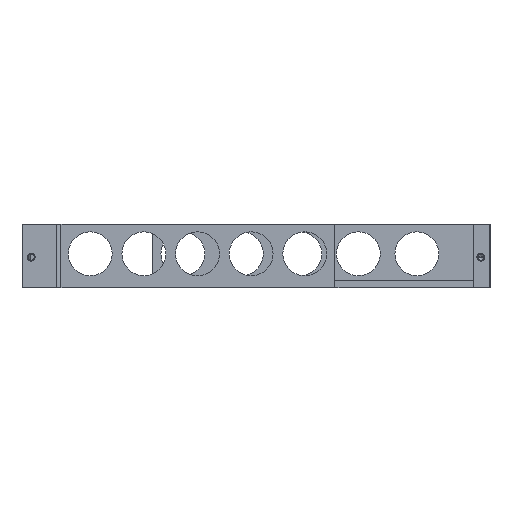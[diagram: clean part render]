
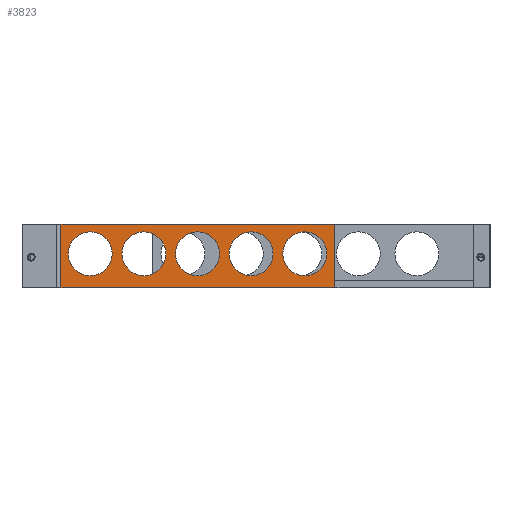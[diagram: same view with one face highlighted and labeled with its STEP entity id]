
A CAD part, left-side view. The second image highlights one B-rep face of the part: STEP entity #3823.
In plain terms, the highlighted planar face has unit normal (-1, 0, 0).
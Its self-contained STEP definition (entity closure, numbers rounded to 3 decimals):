
#180=DIRECTION('',(0.,1.,0.));
#181=VECTOR('',#180,56.2);
#182=CARTESIAN_POINT('',(-46.2,-16.2,0.));
#183=LINE('',#182,#181);
#760=DIRECTION('',(0.,1.,0.));
#761=VECTOR('',#760,56.2);
#762=CARTESIAN_POINT('',(-46.2,-16.2,13.1));
#763=LINE('',#762,#761);
#1130=CARTESIAN_POINT('',(-46.2,-10.,7.));
#1131=DIRECTION('',(-1.,0.,0.));
#1132=DIRECTION('',(0.,-1.,0.));
#1133=AXIS2_PLACEMENT_3D('',#1130,#1131,#1132);
#1135=CARTESIAN_POINT('',(-46.2,-10.,7.));
#1136=DIRECTION('',(-1.,0.,0.));
#1137=DIRECTION('',(0.,1.,0.));
#1138=AXIS2_PLACEMENT_3D('',#1135,#1136,#1137);
#1140=CARTESIAN_POINT('',(-46.2,1.,7.));
#1141=DIRECTION('',(-1.,0.,0.));
#1142=DIRECTION('',(0.,-1.,0.));
#1143=AXIS2_PLACEMENT_3D('',#1140,#1141,#1142);
#1145=CARTESIAN_POINT('',(-46.2,1.,7.));
#1146=DIRECTION('',(-1.,0.,0.));
#1147=DIRECTION('',(0.,1.,0.));
#1148=AXIS2_PLACEMENT_3D('',#1145,#1146,#1147);
#1150=CARTESIAN_POINT('',(-46.2,12.,7.));
#1151=DIRECTION('',(-1.,0.,0.));
#1152=DIRECTION('',(0.,-1.,0.));
#1153=AXIS2_PLACEMENT_3D('',#1150,#1151,#1152);
#1155=CARTESIAN_POINT('',(-46.2,12.,7.));
#1156=DIRECTION('',(-1.,0.,0.));
#1157=DIRECTION('',(0.,1.,0.));
#1158=AXIS2_PLACEMENT_3D('',#1155,#1156,#1157);
#1160=CARTESIAN_POINT('',(-46.2,23.,7.));
#1161=DIRECTION('',(-1.,0.,0.));
#1162=DIRECTION('',(0.,-1.,0.));
#1163=AXIS2_PLACEMENT_3D('',#1160,#1161,#1162);
#1165=CARTESIAN_POINT('',(-46.2,23.,7.));
#1166=DIRECTION('',(-1.,0.,0.));
#1167=DIRECTION('',(0.,1.,0.));
#1168=AXIS2_PLACEMENT_3D('',#1165,#1166,#1167);
#1170=CARTESIAN_POINT('',(-46.2,34.,7.));
#1171=DIRECTION('',(-1.,0.,0.));
#1172=DIRECTION('',(0.,-1.,0.));
#1173=AXIS2_PLACEMENT_3D('',#1170,#1171,#1172);
#1175=CARTESIAN_POINT('',(-46.2,34.,7.));
#1176=DIRECTION('',(-1.,0.,0.));
#1177=DIRECTION('',(0.,1.,0.));
#1178=AXIS2_PLACEMENT_3D('',#1175,#1176,#1177);
#1180=DIRECTION('',(0.,0.,-1.));
#1181=VECTOR('',#1180,13.1);
#1182=CARTESIAN_POINT('',(-46.2,40.,13.1));
#1183=LINE('',#1182,#1181);
#1184=DIRECTION('',(0.,0.,-1.));
#1185=VECTOR('',#1184,13.1);
#1186=CARTESIAN_POINT('',(-46.2,-16.2,13.1));
#1187=LINE('',#1186,#1185);
#2067=CARTESIAN_POINT('',(-46.2,-16.2,0.));
#2068=VERTEX_POINT('',#2067);
#2093=CARTESIAN_POINT('',(-46.2,-16.2,13.1));
#2094=VERTEX_POINT('',#2093);
#2505=CARTESIAN_POINT('',(-46.2,-14.5,7.));
#2506=CARTESIAN_POINT('',(-46.2,-5.5,7.));
#2507=VERTEX_POINT('',#2505);
#2508=VERTEX_POINT('',#2506);
#2513=CARTESIAN_POINT('',(-46.2,-3.5,7.));
#2514=CARTESIAN_POINT('',(-46.2,5.5,7.));
#2515=VERTEX_POINT('',#2513);
#2516=VERTEX_POINT('',#2514);
#2521=CARTESIAN_POINT('',(-46.2,7.5,7.));
#2522=CARTESIAN_POINT('',(-46.2,16.5,7.));
#2523=VERTEX_POINT('',#2521);
#2524=VERTEX_POINT('',#2522);
#2529=CARTESIAN_POINT('',(-46.2,18.5,7.));
#2530=CARTESIAN_POINT('',(-46.2,27.5,7.));
#2531=VERTEX_POINT('',#2529);
#2532=VERTEX_POINT('',#2530);
#2537=CARTESIAN_POINT('',(-46.2,29.5,7.));
#2538=CARTESIAN_POINT('',(-46.2,38.5,7.));
#2539=VERTEX_POINT('',#2537);
#2540=VERTEX_POINT('',#2538);
#2565=CARTESIAN_POINT('',(-46.2,40.,13.1));
#2566=CARTESIAN_POINT('',(-46.2,40.,0.));
#2567=VERTEX_POINT('',#2565);
#2568=VERTEX_POINT('',#2566);
#3782=CARTESIAN_POINT('',(-46.2,-16.2,13.1));
#3783=DIRECTION('',(1.,0.,0.));
#3784=DIRECTION('',(0.,1.,0.));
#3785=AXIS2_PLACEMENT_3D('',#3782,#3783,#3784);
#3786=PLANE('',#3785);
#3787=ORIENTED_EDGE('',*,*,#3776,.F.);
#3788=ORIENTED_EDGE('',*,*,#3326,.F.);
#3789=ORIENTED_EDGE('',*,*,#3209,.T.);
#3790=ORIENTED_EDGE('',*,*,#2676,.T.);
#3791=EDGE_LOOP('',(#3787,#3788,#3789,#3790));
#3792=FACE_OUTER_BOUND('',#3791,.F.);
#3794=ORIENTED_EDGE('',*,*,#3793,.T.);
#3796=ORIENTED_EDGE('',*,*,#3795,.T.);
#3797=EDGE_LOOP('',(#3794,#3796));
#3798=FACE_BOUND('',#3797,.F.);
#3800=ORIENTED_EDGE('',*,*,#3799,.T.);
#3802=ORIENTED_EDGE('',*,*,#3801,.T.);
#3803=EDGE_LOOP('',(#3800,#3802));
#3804=FACE_BOUND('',#3803,.F.);
#3806=ORIENTED_EDGE('',*,*,#3805,.T.);
#3808=ORIENTED_EDGE('',*,*,#3807,.T.);
#3809=EDGE_LOOP('',(#3806,#3808));
#3810=FACE_BOUND('',#3809,.F.);
#3812=ORIENTED_EDGE('',*,*,#3811,.T.);
#3814=ORIENTED_EDGE('',*,*,#3813,.T.);
#3815=EDGE_LOOP('',(#3812,#3814));
#3816=FACE_BOUND('',#3815,.F.);
#3818=ORIENTED_EDGE('',*,*,#3817,.T.);
#3820=ORIENTED_EDGE('',*,*,#3819,.T.);
#3821=EDGE_LOOP('',(#3818,#3820));
#3822=FACE_BOUND('',#3821,.F.);
#3823=ADVANCED_FACE('',(#3792,#3798,#3804,#3810,#3816,#3822),#3786,.F.);
#1134=CIRCLE('',#1133,4.5);
#1139=CIRCLE('',#1138,4.5);
#1144=CIRCLE('',#1143,4.5);
#1149=CIRCLE('',#1148,4.5);
#1154=CIRCLE('',#1153,4.5);
#1159=CIRCLE('',#1158,4.5);
#1164=CIRCLE('',#1163,4.5);
#1169=CIRCLE('',#1168,4.5);
#1174=CIRCLE('',#1173,4.5);
#1179=CIRCLE('',#1178,4.5);
#2676=EDGE_CURVE('',#2068,#2568,#183,.T.);
#3209=EDGE_CURVE('',#2094,#2068,#1187,.T.);
#3326=EDGE_CURVE('',#2094,#2567,#763,.T.);
#3776=EDGE_CURVE('',#2567,#2568,#1183,.T.);
#3793=EDGE_CURVE('',#2515,#2516,#1144,.T.);
#3795=EDGE_CURVE('',#2516,#2515,#1149,.T.);
#3799=EDGE_CURVE('',#2523,#2524,#1154,.T.);
#3801=EDGE_CURVE('',#2524,#2523,#1159,.T.);
#3805=EDGE_CURVE('',#2531,#2532,#1164,.T.);
#3807=EDGE_CURVE('',#2532,#2531,#1169,.T.);
#3811=EDGE_CURVE('',#2539,#2540,#1174,.T.);
#3813=EDGE_CURVE('',#2540,#2539,#1179,.T.);
#3817=EDGE_CURVE('',#2507,#2508,#1134,.T.);
#3819=EDGE_CURVE('',#2508,#2507,#1139,.T.);
